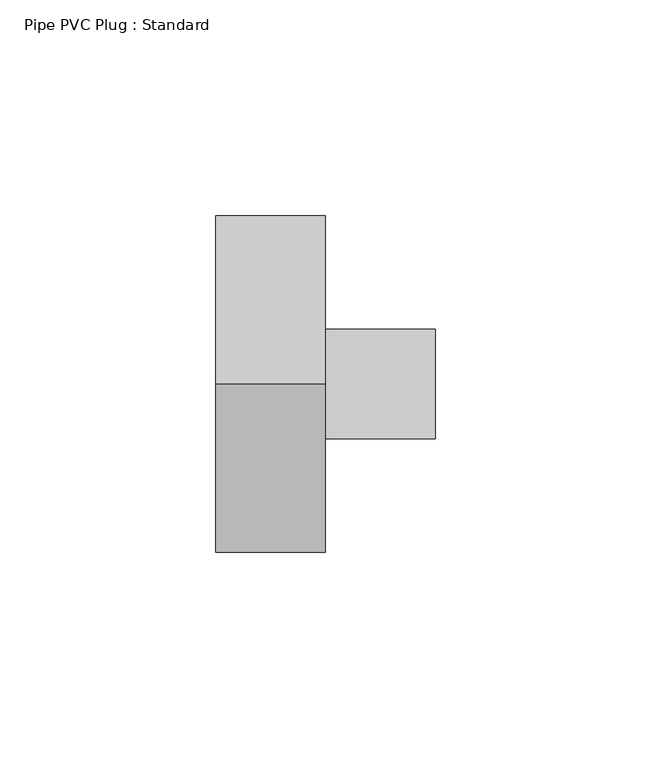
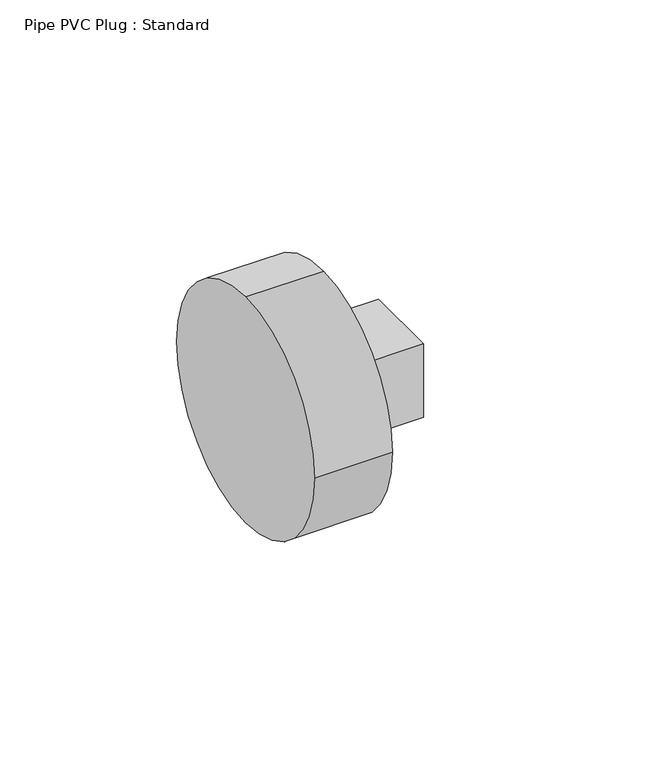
"""IFC4 building model written with IfcOpenShell, lengths in millimetres: pipe fitting geometry, Pipe PVC Plug : Standard."""

from ifc_helpers import new_model, si_unit, point, frame, origin, origin_2d, place, context, project, spatial, polyline, circle_curve, trimmed, segment, composite_curve, outline, extrude, source, transform, mapped, element, save


def pipe_pvc_plug_standard_a2d36fc3(model_context):
    return source(origin(), model_context, "Body", "SweptSolid", [
        extrude(outline(composite_curve([segment(trimmed(circle_curve(origin_2d(), 38.9636), [point((0.0, 38.9636))], [point((38.9636, 0.0))], False, "CARTESIAN"), True, "CONTINUOUS"), segment(trimmed(circle_curve(origin_2d(), 38.9636), [point((38.9636, 0.0))], [point((0.0, -38.9636))], False, "CARTESIAN"), True, "CONTINUOUS"), segment(trimmed(circle_curve(origin_2d(), 38.9636), [point((0.0, -38.9636))], [point((-38.9636, 0.0))], False, "CARTESIAN"), True, "CONTINUOUS"), segment(trimmed(circle_curve(origin_2d(), 38.9636), [point((-38.9636, 0.0))], [point((0.0, 38.9636))], False, "CARTESIAN"), True, "CONTINUOUS")], self_intersect=False)), frame((-25.4, 0.0, 0.0), z_axis=(1.0, 0.0, 0.0), x_axis=(0.0, 1.0, 0.0)), (0.0, 0.0, 1.0), 25.4),
        extrude(outline(polyline([(0.0, -12.7), (0.0, 12.7), (25.4, 12.7), (25.4, -12.7), (0.0, -12.7)])), frame((0.0, 0.0, -12.7), z_axis=(0.0, 0.0, 1.0), x_axis=(1.0, 0.0, 0.0)), (0.0, 0.0, 1.0), 25.4),
        extrude(outline(composite_curve([segment(trimmed(circle_curve(origin_2d(), 38.9636), [point((0.0, 38.9636))], [point((38.9636, 0.0))], False, "CARTESIAN"), True, "CONTINUOUS"), segment(trimmed(circle_curve(origin_2d(), 38.9636), [point((38.9636, 0.0))], [point((0.0, -38.9636))], False, "CARTESIAN"), True, "CONTINUOUS"), segment(trimmed(circle_curve(origin_2d(), 38.9636), [point((0.0, -38.9636))], [point((-38.9636, 0.0))], False, "CARTESIAN"), True, "CONTINUOUS"), segment(trimmed(circle_curve(origin_2d(), 38.9636), [point((-38.9636, 0.0))], [point((0.0, 38.9636))], False, "CARTESIAN"), True, "CONTINUOUS")], self_intersect=False)), frame((-25.4, 0.0, 0.0), z_axis=(1.0, 0.0, 0.0), x_axis=(0.0, 1.0, 0.0)), (0.0, 0.0, 1.0), 25.4),
    ])


if __name__ == "__main__":
    model = new_model("IFC4")
    model_context = context("Model", 3, world=origin())
    ifc_project = project(units=[si_unit("LENGTHUNIT", "METRE", prefix="MILLI")], contexts=[model_context])
    site = spatial("IfcSite", under=ifc_project)
    building = spatial("IfcBuilding", under=site)
    placement = place(None, origin())
    pipe_pvc_plug_standard_shape = pipe_pvc_plug_standard_a2d36fc3(model_context)
    element("IfcPipeFitting", 1, ObjectType="Pipe PVC Plug : Standard", at=placement, inside=building, context=model_context, shape_type="MappedRepresentation", body=[
        mapped(pipe_pvc_plug_standard_shape, transform((0.0, 0.0, 0.0), x_axis=(1.0, 0.0, 0.0), y_axis=(0.0, 1.0, 0.0), z_axis=(0.0, 0.0, 1.0))),
    ])
    save(model, "model.ifc")
